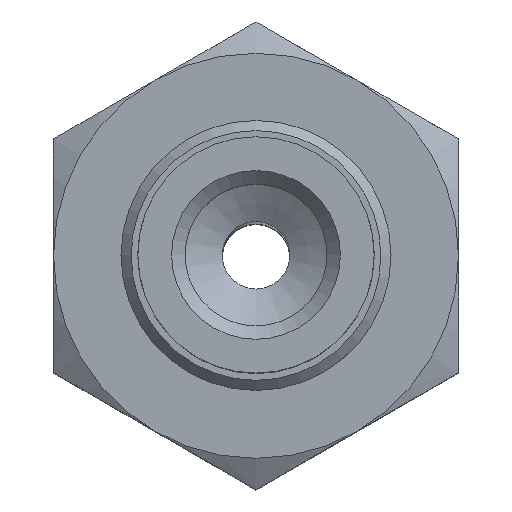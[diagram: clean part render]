
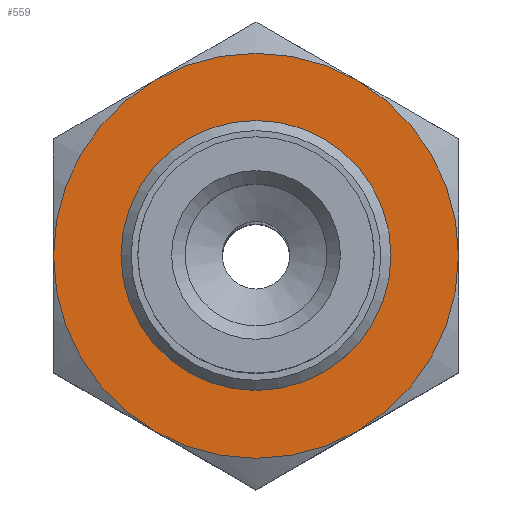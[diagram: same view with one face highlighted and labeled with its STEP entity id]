
A CAD part, top view. The second image highlights one B-rep face of the part: STEP entity #559.
In plain terms, the highlighted planar face has unit normal (0, 0, 1).
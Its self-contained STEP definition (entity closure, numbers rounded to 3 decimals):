
#559=ADVANCED_FACE('',(#790,#791),#792,.T.);
#790=FACE_BOUND('',#1136,.T.);
#791=FACE_OUTER_BOUND('',#1137,.T.);
#792=PLANE('',#1138);
#1136=EDGE_LOOP('',(#1677));
#1137=EDGE_LOOP('',(#1678,#1679,#1680,#1681,#1682,#1683));
#1138=AXIS2_PLACEMENT_3D('',#1684,#1685,#1686);
#1677=ORIENTED_EDGE('',*,*,#2318,.T.);
#1678=ORIENTED_EDGE('',*,*,#2319,.T.);
#1679=ORIENTED_EDGE('',*,*,#2320,.T.);
#1680=ORIENTED_EDGE('',*,*,#2284,.T.);
#1681=ORIENTED_EDGE('',*,*,#2306,.T.);
#1682=ORIENTED_EDGE('',*,*,#2321,.T.);
#1683=ORIENTED_EDGE('',*,*,#2316,.T.);
#1684=CARTESIAN_POINT('',(-6.928,-6.0,3.0));
#1685=DIRECTION('',(0.0,0.0,1.0));
#1686=DIRECTION('',(1.0,0.0,0.0));
#2284=EDGE_CURVE('',#2550,#2541,#2551,.T.);
#2306=EDGE_CURVE('',#2541,#2587,#2589,.T.);
#2316=EDGE_CURVE('',#2565,#2556,#2602,.T.);
#2318=EDGE_CURVE('',#2604,#2604,#2605,.T.);
#2319=EDGE_CURVE('',#2556,#2583,#2606,.T.);
#2320=EDGE_CURVE('',#2583,#2550,#2607,.T.);
#2321=EDGE_CURVE('',#2587,#2565,#2608,.T.);
#2541=VERTEX_POINT('',#2932);
#2550=VERTEX_POINT('',#2954);
#2551=CIRCLE('',#2955,6.0);
#2556=VERTEX_POINT('',#2965);
#2565=VERTEX_POINT('',#2987);
#2583=VERTEX_POINT('',#3031);
#2587=VERTEX_POINT('',#3043);
#2589=CIRCLE('',#3049,6.0);
#2602=CIRCLE('',#3078,6.0);
#2604=VERTEX_POINT('',#3080);
#2605=CIRCLE('',#3081,3.925);
#2606=CIRCLE('',#3082,6.0);
#2607=CIRCLE('',#3083,6.0);
#2608=CIRCLE('',#3084,6.0);
#2932=CARTESIAN_POINT('',(-5.196,3.0,3.0));
#2954=CARTESIAN_POINT('',(0.,6.0,3.0));
#2955=AXIS2_PLACEMENT_3D('',#3573,#3574,#3575);
#2965=CARTESIAN_POINT('',(5.196,-3.0,3.0));
#2987=CARTESIAN_POINT('',(0.,-6.0,3.0));
#3031=CARTESIAN_POINT('',(5.196,3.0,3.0));
#3043=CARTESIAN_POINT('',(-5.196,-3.0,3.0));
#3049=AXIS2_PLACEMENT_3D('',#3586,#3587,#3588);
#3078=AXIS2_PLACEMENT_3D('',#3601,#3602,#3603);
#3080=CARTESIAN_POINT('',(3.925,0.0,3.0));
#3081=AXIS2_PLACEMENT_3D('',#3607,#3608,#3609);
#3082=AXIS2_PLACEMENT_3D('',#3610,#3611,#3612);
#3083=AXIS2_PLACEMENT_3D('',#3613,#3614,#3615);
#3084=AXIS2_PLACEMENT_3D('',#3616,#3617,#3618);
#3573=CARTESIAN_POINT('',(0.,0.0,3.0));
#3574=DIRECTION('',(0.0,0.,1.0));
#3575=DIRECTION('',(0.0,-1.0,0.));
#3586=CARTESIAN_POINT('',(0.,0.0,3.0));
#3587=DIRECTION('',(0.0,0.,1.0));
#3588=DIRECTION('',(0.0,-1.0,0.));
#3601=CARTESIAN_POINT('',(0.,0.0,3.0));
#3602=DIRECTION('',(0.0,0.,1.0));
#3603=DIRECTION('',(0.0,-1.0,0.));
#3607=CARTESIAN_POINT('',(0.0,0.0,3.0));
#3608=DIRECTION('',(0.0,0.0,-1.0));
#3609=DIRECTION('',(1.0,0.0,0.0));
#3610=CARTESIAN_POINT('',(0.,0.0,3.0));
#3611=DIRECTION('',(0.0,0.,1.0));
#3612=DIRECTION('',(0.0,-1.0,0.));
#3613=CARTESIAN_POINT('',(0.,0.0,3.0));
#3614=DIRECTION('',(0.0,0.,1.0));
#3615=DIRECTION('',(0.0,-1.0,0.));
#3616=CARTESIAN_POINT('',(0.,0.0,3.0));
#3617=DIRECTION('',(0.0,0.,1.0));
#3618=DIRECTION('',(0.0,-1.0,0.));
